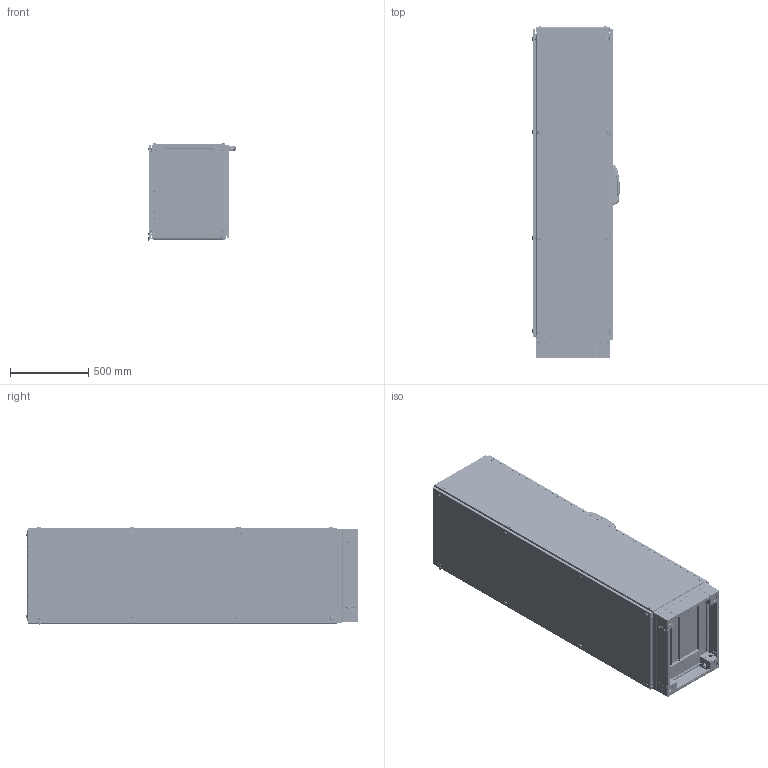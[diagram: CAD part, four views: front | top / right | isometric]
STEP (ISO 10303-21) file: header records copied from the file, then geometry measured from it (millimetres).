
FILE_DESCRIPTION (( 'STEP AP203' ), '1' );
FILE_NAME ('706.205 600x2000x500.STEP', '2020-04-04T15:31:00', ( '' ), ( '' ), 'SwSTEP 2.0', 'SolidWorks 2019', '' );
FILE_SCHEMA (( 'CONFIG_CONTROL_DESIGN' ));
Length unit declared in the file: millimetre
Products named in the file (125): percinli taban-vidalý kapak-kose pls yok_701.650-60X50 ALT; M6 HAVÞA PLASTÝK CÝVATA; socket button head cap screw_am_B18.3.4M - 8 x 1.25 x 16 SBHCS --N; MP 18.7631 32002136; TEOS REAR PANEL_703.620 600X2000; kose rondela kabartmaSIZ 12; V2 BAZA KOSESI2015_100; M6 KAFES SOMU2015; TEOS Kilit Üst Çubuk_2000--MP 16.0130; MP 11.0195 montaj plakasý m8takoz1VER3 NEO26-12; delikli profil cerceve_600x2000; PB 14.0004 M6 HAVÞA PLASTÝK CÝVATA; kapali dikey profilkenetli_ita oluklu10-aaaaaaaaaaaa-1_600; on Kapi 10-2017 2 mm dkp_PP 17.1082 600x2000; socket head cap screw_am_B18.3.1M - 8 x 1.25 x 35 Hex SHCS -- 35NHX; on citaVER3 teos26-12_600; M8 KAFES SOMUN_m8; pan cross head_am1_B18.6.7M - M5 x 0.8 x 10 Type I Cross Recessed PHMS --10N; ENINE DELIKLI PROFIL_600; 03-2012 sac kilit dil 10-2010 ORTA; V3 -2011 DT BAZA KAPAGI yan_PP 12.0050 - 500; mentese bakýr kapak 09-201; kafes somun kafes; BAZA KÖÞES_SOL; M8 Somun Kafesi_m8; V2 -2011 DT BAZA KAPAGI ON_PP 12.0045 - 600; TEOS iskelet_600x2000x500; MP 18.7631 Kayar Parça; MP 14.0007 M6 PLASTÝK HAVSA; TEOS Kilit Üst Çubuk Montaj_2000H; MP 18.7631 Arka Kapak; 252016-2; 03taban derinlik percinli_PP 12.0024 - 500; MP 18.7631 yddk_tozkapagi; 03-KOSE PUNT; MP 18.7631 204 handle REV04 tekpan logo; 03-2012 sac kilit dil 10-2010 alt ust; TEOS TEK KAPAK REVÝZE_600x2000; TEOS SIDE PANEL_706.205 2000X500; TEOS-NEO MP Sag Dayama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
Assembly tree (387 placements, depth 7):
  706.205 600x2000x500
    TEOS iskelet_600x2000x500
      kapali dikey profilkenetli_ita oluklu10-aaaaaaaaaaaa-1_2000   x4
      kapali dikey profilkenetli_ita oluklu10-aaaaaaaaaaaa-1_500  x4
      kapali dikey profilkenetli_ita oluklu10-aaaaaaaaaaaa-1_600  x4
      L KOSE DESTEKorj1  x8
      kose rondela kabartmaSIZ 10  x15
      kose rondela kabartmaSIZ 12
      MP 11.0140 TEOS ALUMINYUM KOSE APPROVED 16.08.2010  x8
      M5 DÝKEY PROFÝL RONDELA  x16
      percinli taban-vidalý kapak-kose pls yok_701.650-60X50 ALT
        03-taban genislik percinli 04 - 2012 100-120_PP 12.0019 - 600  x2
        03taban derinlik percinli_PP 12.0024 - 500  x2
        03-KOSE PUNT_PP 12.0027
        03-KOSE PUNT
        Mirror03-KOSE PUNT  x2
        TEOS V2 BAZA S嵞TEM廆600X500
          BAZA KÖÞES_SAG
            V2 BAZA KOSESI2015_100
            BAZA SISTEMIV2-6 baza kapaðý201550x40_TEKPAN LOGOLU
            M6 KAFES SOMU2015
              kafes somun kafes
              somu
            M6 KAFES SOMU2015
              kafes somun kafes
              somu
          V2 -2011 DT BAZA KAPAGI ON_PP 12.0045 - 600  x2
          BAZA KÖÞES_SOL
            V2 BAZA KOSESI2015_100
            BAZA SISTEMIV2-6 baza kapaðý201550x40
            M6 KAFES SOMU2015
              kafes somun kafes
              somu
            M6 KAFES SOMU2015
              kafes somun kafes
              somu
          BAZA KÖÞES_SAG
            V2 BAZA KOSESI2015_100
            BAZA SISTEMIV2-6 baza kapaðý201550x40_TEKPAN LOGOLU
            M6 KAFES SOMU2015
              kafes somun kafes
              somu
            M6 KAFES SOMU2015
              kafes somun kafes
              somu
          BAZA KÖÞES_SOL
            V2 BAZA KOSESI2015_100
            BAZA SISTEMIV2-6 baza kapaðý201550x40
            M6 KAFES SOMU2015
              kafes somun kafes
              somu
            M6 KAFES SOMU2015
              kafes somun kafes
              somu
          V3 -2011 DT BAZA KAPAGI yan_PP 12.0050 - 500  x2
          flat head screw_am_B18.6.7M - M6 x 1.0 x 20 Type I Cross Recessed FHMS --20N  x8
        03-TABAN SACI SURGU_PP 12.0030 - 600
        03-TABAN SACI U1 04-2012_PP 12.0040 - 600-75
        03-TABAN SACI U1 04-2012_PP 12.0035 - 600-200
        mp aLT DAYAMA_PP 12.0092 - 500  x2
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Bounding box: 558.08 x 2117.1 x 623.59 mm (x, y, z)
Volume: 19068327.3 mm3; surface area: 20103127.9 mm2
Topology: 333 solids, 373 shells, 50993 faces, 138241 edges, 87691 vertices
Faces by surface type: plane 32424, cylinder 13636, bspline 2211, torus 1147, cone 966, sphere 609
Entity records: 704650 total; most frequent: CARTESIAN_POINT 294770, ORIENTED_EDGE 83374, DIRECTION 76804, EDGE_CURVE 41687, VECTOR 27850, LINE 27850, VERTEX_POINT 26690, AXIS2_PLACEMENT_3D 24477
